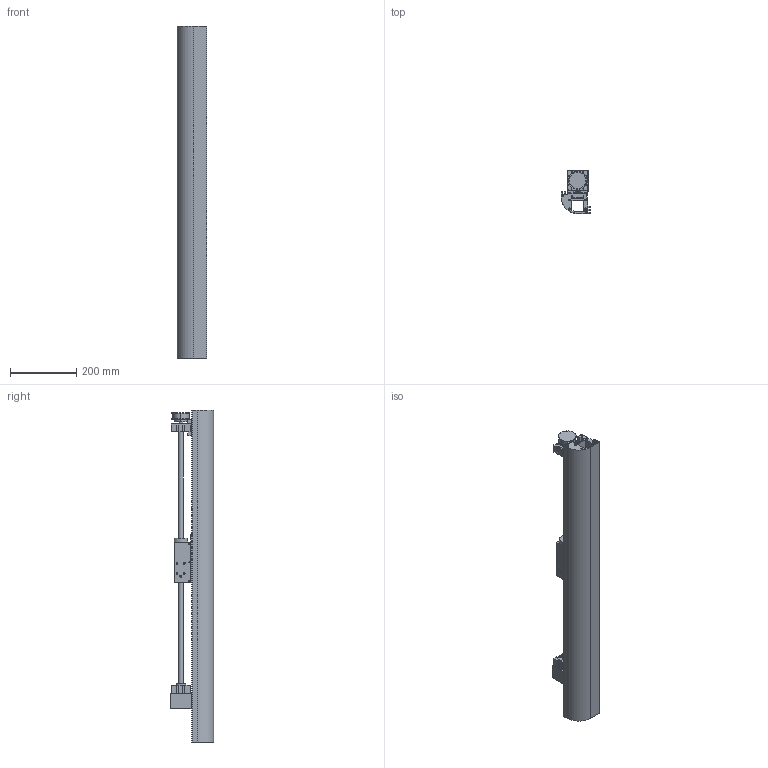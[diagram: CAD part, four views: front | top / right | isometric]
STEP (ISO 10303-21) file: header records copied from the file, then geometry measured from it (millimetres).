
FILE_DESCRIPTION (( 'STEP AP214' ), '1' );
FILE_NAME ('CLLK90 - RECHTS.STEP', '2021-09-27T10:13:04', ( '' ), ( '' ), 'SwSTEP 2.0', 'SolidWorks 2020', '' );
FILE_SCHEMA (( 'AUTOMOTIVE_DESIGN' ));
Length unit declared in the file: millimetre
Products named in the file (8): Führungsprofil CL90 - ED^CLLK90 - Konfig - ED; Motoradapter^CLLK90 - Konfig - ED; Lagerstück C90^CLLK90 - Konfig - ED; Schmiernippel  M6x1 - Edelstahl; Spindel ^CLLK90 - Konfig - ED; CLLK90 - RECHTS; Schlitten^CLLK90 - Konfig - ED; Lagerstück CL60^CLLK90 - Konfig - ED
Assembly tree (7 placements, depth 2):
  CLLK90 - RECHTS
    Führungsprofil CL90 - ED^CLLK90 - Konfig - ED
    Schlitten^CLLK90 - Konfig - ED
    Lagerstück CL60^CLLK90 - Konfig - ED
    Lagerstück C90^CLLK90 - Konfig - ED
    Schmiernippel  M6x1 - Edelstahl
    Motoradapter^CLLK90 - Konfig - ED
    Spindel ^CLLK90 - Konfig - ED
Bounding box: 90 x 131 x 1000 mm (x, y, z)
Volume: 3449324.5 mm3; surface area: 914022.3 mm2
Topology: 11 solids, 11 shells, 545 faces, 1469 edges, 952 vertices
Faces by surface type: plane 347, cylinder 146, cone 46, torus 4, sphere 2
Entity records: 20024 total; most frequent: CARTESIAN_POINT 3676, ORIENTED_EDGE 2886, DIRECTION 2825, EDGE_CURVE 1443, VECTOR 1103, LINE 1103, VERTEX_POINT 950, AXIS2_PLACEMENT_3D 861
